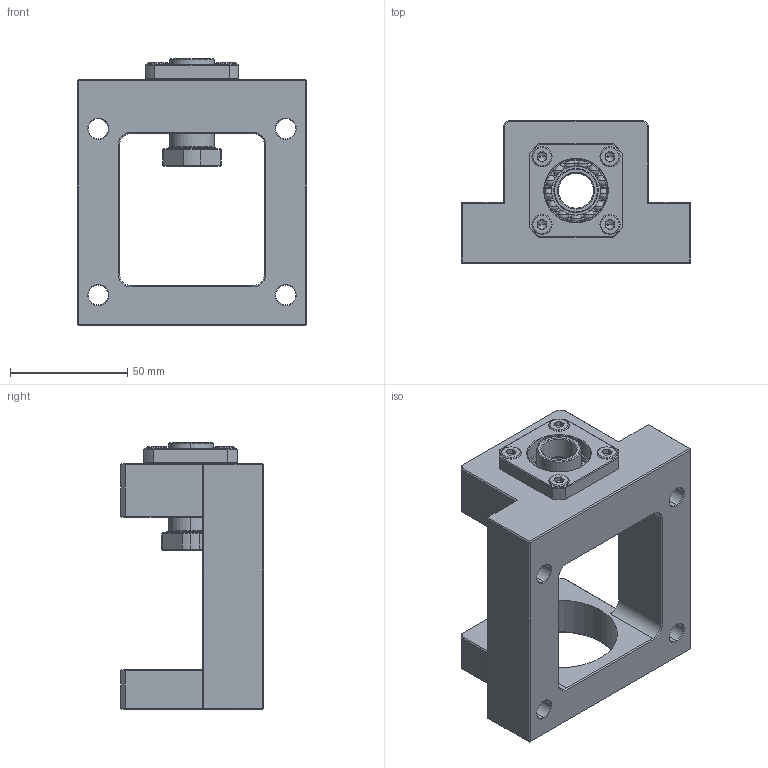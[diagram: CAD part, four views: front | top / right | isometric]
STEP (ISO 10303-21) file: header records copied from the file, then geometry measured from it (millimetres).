
FILE_DESCRIPTION (( 'STEP AP203' ), '1' );
FILE_NAME ('SBJU15.STEP', '2009-06-01T02:03:15', ( '冠犁泅' ), ( '俺惯何' ), 'SwSTEP 2.0', 'SolidWorks 2007', '' );
FILE_SCHEMA (( 'CONFIG_CONTROL_DESIGN' ));
Length unit declared in the file: millimetre
Products named in the file (10): RN15_ル遽; K15_EK_AK_FK15(COLLAR)_晦獄 撲薑; SBJU15; SBJU15_P0_ル遽; 7002adf_ル遽; SBJU15_COVER_ル遽; RN15_NUT_晦獄 撲薑; SET PIECE_白3.1x1_晦獄 撲薑; Socket Set Screw Flat Point_AM_B18.3.6M - M4 x 0.7 x 4 Hex Socket Flat Pt. SS --N_B18.3.6M - M4 x 0.7 x 4 Hex Socket Flat Pt. SS --N; Socket Head Cap Screw_M5x18L_B18.3.1M - 4 x 0.7 x 8 Hex SHCS -- 8NHX
Assembly tree (13 placements, depth 3):
  SBJU15
    K15_EK_AK_FK15(COLLAR)_晦獄 撲薑  x2
    Socket Head Cap Screw_M5x18L_B18.3.1M - 4 x 0.7 x 8 Hex SHCS -- 8NHX  x4
    RN15_ル遽
      SET PIECE_白3.1x1_晦獄 撲薑
      Socket Set Screw Flat Point_AM_B18.3.6M - M4 x 0.7 x 4 Hex Socket Flat Pt. SS --N_B18.3.6M - M4 x 0.7 x 4 Hex Socket Flat Pt. SS --N
      RN15_NUT_晦獄 撲薑
    SBJU15_COVER_ル遽
    SBJU15_P0_ル遽
    7002adf_ル遽
Bounding box: 98 x 61 x 114 mm (x, y, z)
Volume: 202341.1 mm3; surface area: 63242.3 mm2
Topology: 11 solids, 40 shells, 563 faces, 1293 edges, 708 vertices
Faces by surface type: plane 182, cone 158, cylinder 131, bspline 84, torus 8
Entity records: 15427 total; most frequent: CARTESIAN_POINT 4359, DIRECTION 2177, ORIENTED_EDGE 1934, EDGE_CURVE 969, AXIS2_PLACEMENT_3D 855, VERTEX_POINT 593, EDGE_LOOP 526, ADVANCED_FACE 468
